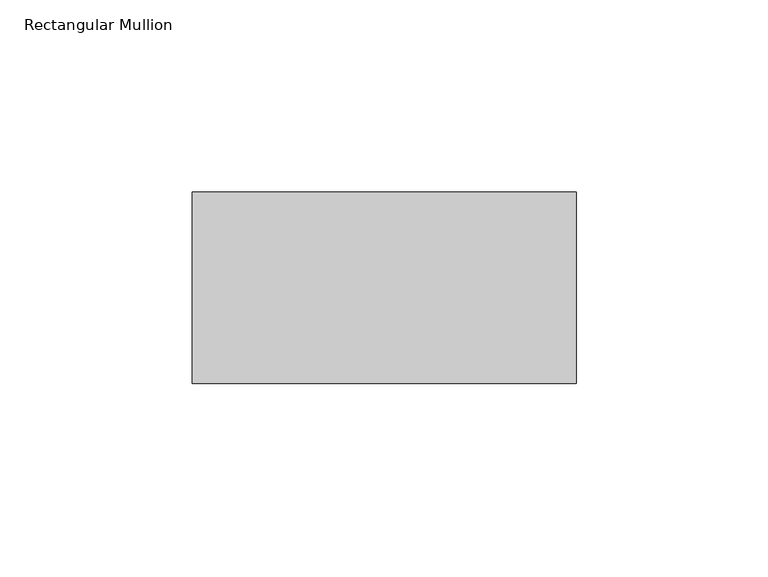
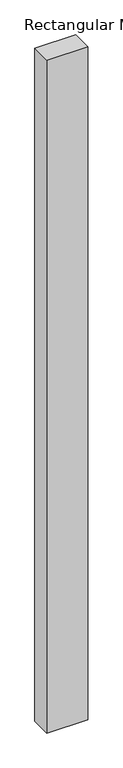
"""IFC4 building model written with IfcOpenShell, lengths in millimetres: member geometry, Rectangular Mullion : Mullion_Curtain Wall_Generic Showcase_50x100mm."""

from ifc_helpers import new_model, si_unit, frame, origin, place, context, project, spatial, polyline, outline, extrude, source, transform, mapped, element, save


def rectangular_mullion_a9aae7de(model_context):
    return source(origin(), model_context, "Body", "SweptSolid", [
        extrude(outline(polyline([(0.0, 0.0), (0.0, -50.0), (-100.0, -50.0), (-100.0, 0.0), (0.0, 0.0)])), frame((0.0, 0.0, -1738.479996), z_axis=(0.0, 0.0, 1.0), x_axis=(1.0, 0.0, 0.0)), (0.0, 0.0, 1.0), 1738.479996),
    ])


if __name__ == "__main__":
    model = new_model("IFC4")
    model_context = context("Model", 3, world=origin())
    ifc_project = project(units=[si_unit("LENGTHUNIT", "METRE", prefix="MILLI")], contexts=[model_context])
    site = spatial("IfcSite", under=ifc_project)
    building = spatial("IfcBuilding", under=site)
    placement = place(None, origin())
    rectangular_mullion_shape = rectangular_mullion_a9aae7de(model_context)
    element("IfcMember", 1, ObjectType="Rectangular Mullion : Mullion_Curtain Wall_Generic Showcase_50x100mm", at=placement, inside=building, context=model_context, shape_type="MappedRepresentation", body=[
        mapped(rectangular_mullion_shape, transform((0.0, 0.0, 0.0), x_axis=(1.0, 0.0, 0.0), y_axis=(0.0, 1.0, 0.0), z_axis=(0.0, 0.0, 1.0))),
    ])
    save(model, "model.ifc")
